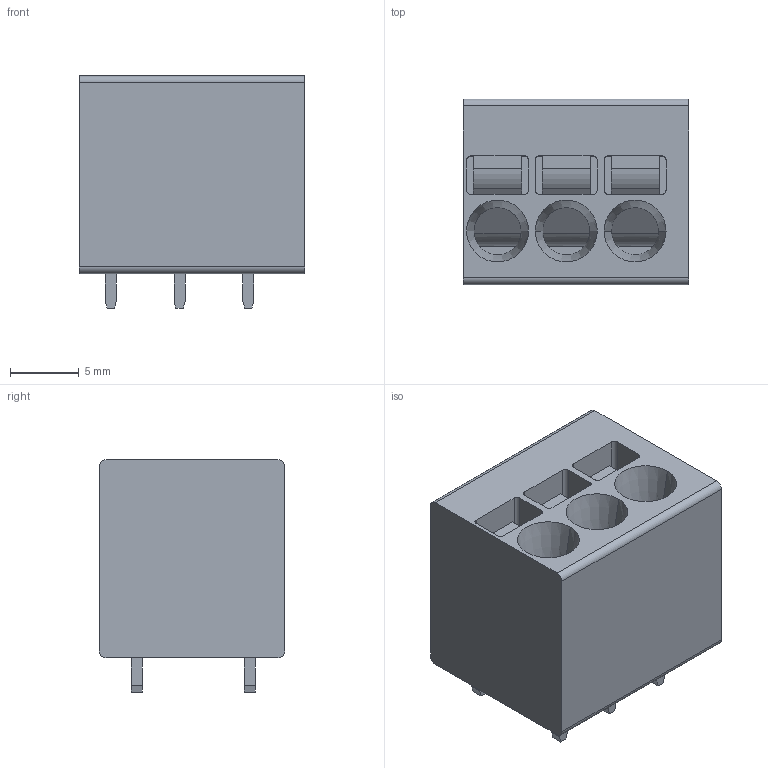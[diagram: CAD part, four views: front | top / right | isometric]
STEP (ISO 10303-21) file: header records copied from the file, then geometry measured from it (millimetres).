
FILE_DESCRIPTION (( 'STEP AP214' ), '1' );
FILE_NAME ('CONN-TH_3P-P5.00_MX205V-5.0-03P-GN01-CU-A.STEP', '2025-03-27T07:06:19', ( 'PC' ), ( 'Microsoft' ), 'SwSTEP 2.0', 'SolidWorks 2020', '' );
FILE_SCHEMA (( 'AUTOMOTIVE_DESIGN' ));
Length unit declared in the file: millimetre
Products named in the file (1): CONN-TH_3P-P5.00_MX205V-5.0-03P-GN01-CU-A
Bounding box: 16.41 x 13.5 x 16.9 mm (x, y, z)
Volume: 2628.2 mm3; surface area: 2124.5 mm2
Topology: 1 solids, 4 shells, 372 faces, 993 edges, 660 vertices
Faces by surface type: plane 225, bspline 98, cylinder 43, cone 6
Entity records: 16199 total; most frequent: CARTESIAN_POINT 3462, ORIENTED_EDGE 1986, DIRECTION 1381, EDGE_CURVE 993, LINE 695, VECTOR 695, VERTEX_POINT 660, EDGE_LOOP 409
